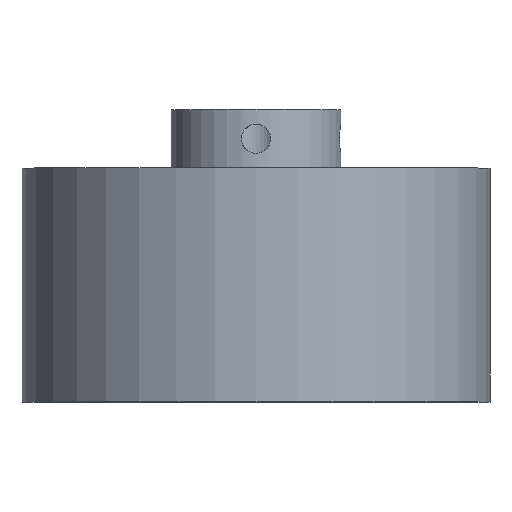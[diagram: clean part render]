
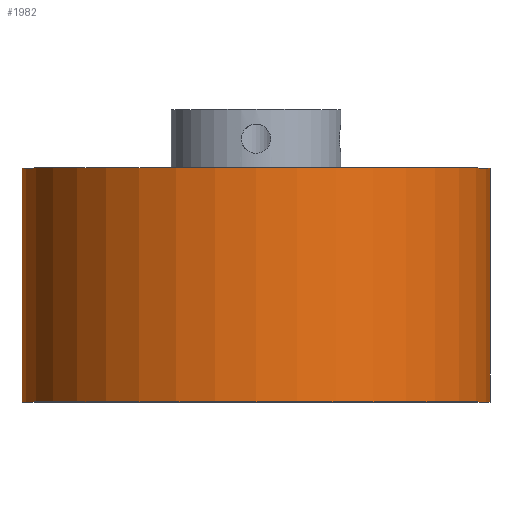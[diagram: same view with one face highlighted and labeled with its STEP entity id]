
A CAD part, top view. The second image highlights one B-rep face of the part: STEP entity #1982.
In plain terms, the highlighted cylindrical face has radius 50.8 mm (diameter 101.6 mm), a full revolution.
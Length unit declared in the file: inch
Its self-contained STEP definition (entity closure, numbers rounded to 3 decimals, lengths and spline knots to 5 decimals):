
#270=FACE_OUTER_BOUND('',#364,.T.);
#364=EDGE_LOOP('',(#1623,#1624,#1625,#1626));
#550=LINE('',#3317,#696);
#696=VECTOR('',#2771,2.);
#815=CIRCLE('',#2212,2.);
#816=CIRCLE('',#2213,2.);
#991=VERTEX_POINT('',#3314);
#992=VERTEX_POINT('',#3316);
#1262=EDGE_CURVE('',#991,#991,#815,.T.);
#1263=EDGE_CURVE('',#991,#992,#550,.T.);
#1264=EDGE_CURVE('',#992,#992,#816,.T.);
#1623=ORIENTED_EDGE('',*,*,#1262,.F.);
#1624=ORIENTED_EDGE('',*,*,#1263,.T.);
#1625=ORIENTED_EDGE('',*,*,#1264,.T.);
#1626=ORIENTED_EDGE('',*,*,#1263,.F.);
#1892=CYLINDRICAL_SURFACE('',#2211,2.);
#1982=ADVANCED_FACE('',(#270),#1892,.T.);
#2211=AXIS2_PLACEMENT_3D('',#3313,#2767,#2768);
#2212=AXIS2_PLACEMENT_3D('',#3315,#2769,#2770);
#2213=AXIS2_PLACEMENT_3D('',#3318,#2772,#2773);
#2767=DIRECTION('center_axis',(0.,1.,0.));
#2768=DIRECTION('ref_axis',(-1.,0.,0.));
#2769=DIRECTION('center_axis',(0.,1.,0.));
#2770=DIRECTION('ref_axis',(-1.,0.,0.));
#2771=DIRECTION('',(0.,-1.,0.));
#2772=DIRECTION('center_axis',(0.,1.,0.));
#2773=DIRECTION('ref_axis',(-1.,0.,0.));
#3313=CARTESIAN_POINT('Origin',(0.,0.,0.));
#3314=CARTESIAN_POINT('',(2.,2.,0.));
#3315=CARTESIAN_POINT('Origin',(0.,2.,0.));
#3316=CARTESIAN_POINT('',(2.,0.,0.));
#3317=CARTESIAN_POINT('',(2.,0.,0.));
#3318=CARTESIAN_POINT('Origin',(0.,0.,0.));
